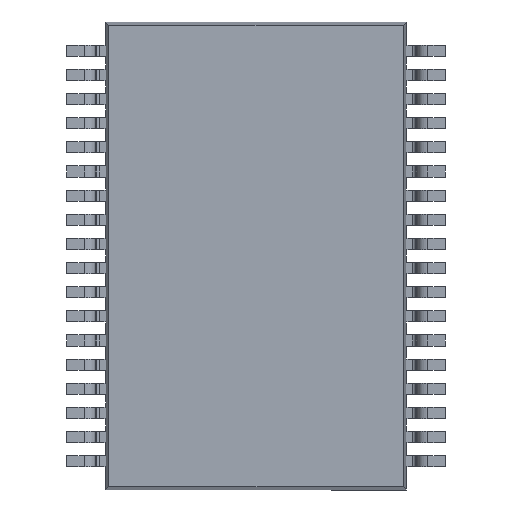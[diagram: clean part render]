
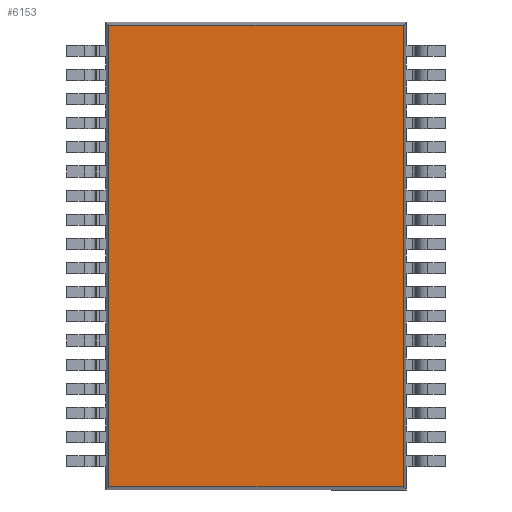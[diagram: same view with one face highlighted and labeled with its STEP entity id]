
A CAD part, front view. The second image highlights one B-rep face of the part: STEP entity #6153.
In plain terms, the highlighted planar face has unit normal (0, -1, 0).
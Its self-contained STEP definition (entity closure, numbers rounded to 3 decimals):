
#243 = EDGE_LOOP ( 'NONE', ( #22872, #22873, #22874, #22875 ) ) ;
#1602 = AXIS2_PLACEMENT_3D ( 'NONE', #4685, #4696, #4697 ) ;
#4685 = CARTESIAN_POINT ( 'NONE',  ( 0., 0.1, 0. ) ) ;
#4694 = PLANE ( 'NONE',  #1602 ) ;
#4696 = DIRECTION ( 'NONE',  ( 0., 1., 0. ) ) ;
#4697 = DIRECTION ( 'NONE',  ( 0., 0., 1. ) ) ;
#5053 = FACE_OUTER_BOUND ( 'NONE', #243, .T. ) ;
#6153 = ADVANCED_FACE ( 'NONE', ( #5053 ), #4694, .F. ) ;
#8682 = DIRECTION ( 'NONE',  ( -1., 0., 0. ) ) ;
#8684 = CARTESIAN_POINT ( 'NONE',  ( 4.05, 0.1, -6.216 ) ) ;
#8685 = CARTESIAN_POINT ( 'NONE',  ( 4.05, 0.1, 6.216 ) ) ;
#8689 = DIRECTION ( 'NONE',  ( 1., 0., 0. ) ) ;
#8908 = LINE ( 'NONE', #8685, #8912 ) ;
#8910 = LINE ( 'NONE', #8684, #8914 ) ;
#8912 = VECTOR ( 'NONE', #8682, 1000. ) ;
#8914 = VECTOR ( 'NONE', #8689, 1000. ) ;
#9032 = LINE ( 'NONE', #9982, #9035 ) ;
#9035 = VECTOR ( 'NONE', #9983, 1000. ) ;
#9048 = LINE ( 'NONE', #9998, #9051 ) ;
#9051 = VECTOR ( 'NONE', #9999, 1000. ) ;
#9982 = CARTESIAN_POINT ( 'NONE',  ( 3.966, 0.1, 6.3 ) ) ;
#9983 = DIRECTION ( 'NONE',  ( 0., 0., 1. ) ) ;
#9998 = CARTESIAN_POINT ( 'NONE',  ( -3.966, 0.1, 6.3 ) ) ;
#9999 = DIRECTION ( 'NONE',  ( 0., 0., -1. ) ) ;
#14289 = CARTESIAN_POINT ( 'NONE',  ( 3.966, 0.1, -6.216 ) ) ;
#14483 = CARTESIAN_POINT ( 'NONE',  ( 3.966, 0.1, 6.216 ) ) ;
#14491 = CARTESIAN_POINT ( 'NONE',  ( -3.966, 0.1, 6.216 ) ) ;
#14500 = CARTESIAN_POINT ( 'NONE',  ( -3.966, 0.1, -6.216 ) ) ;
#16807 = EDGE_CURVE ( 'NONE', #20331, #20339, #8908, .T. ) ;
#16808 = EDGE_CURVE ( 'NONE', #20348, #19324, #8910, .T. ) ;
#16869 = EDGE_CURVE ( 'NONE', #19324, #20331, #9032, .T. ) ;
#16877 = EDGE_CURVE ( 'NONE', #20339, #20348, #9048, .T. ) ;
#19324 = VERTEX_POINT ( 'NONE', #14289 ) ;
#20331 = VERTEX_POINT ( 'NONE', #14483 ) ;
#20339 = VERTEX_POINT ( 'NONE', #14491 ) ;
#20348 = VERTEX_POINT ( 'NONE', #14500 ) ;
#22872 = ORIENTED_EDGE ( 'NONE', *, *, #16877, .T. ) ;
#22873 = ORIENTED_EDGE ( 'NONE', *, *, #16808, .T. ) ;
#22874 = ORIENTED_EDGE ( 'NONE', *, *, #16869, .T. ) ;
#22875 = ORIENTED_EDGE ( 'NONE', *, *, #16807, .T. ) ;
